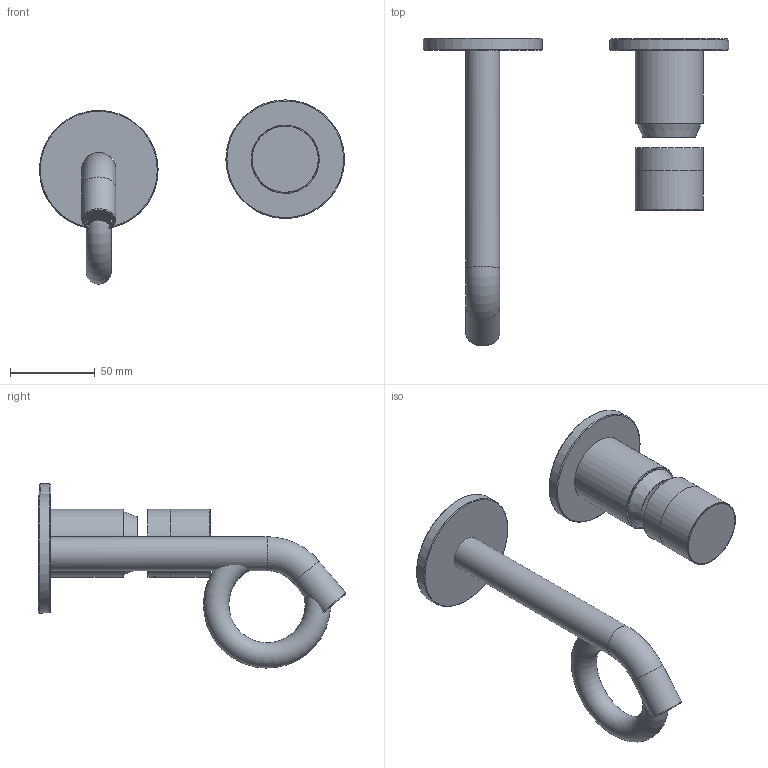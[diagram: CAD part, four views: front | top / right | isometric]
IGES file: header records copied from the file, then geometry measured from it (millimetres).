
Start section: Data from Parasolid IGES Translator 22.0.50, Copyright(c) 2006 Siemens P LM Software. All Rights Reserved.
Global section: file name: noorth-taps-H 7 D 21 W 18_5836.igs; native system: By Siemens PLM Incorporated; preprocessor: XPlus GENERIC/IGES 22.0.50; author: Noname; organization: Noname; date: 20260215.154139; units: metre
Bounding box: 180 x 181.51 x 108.67 mm (x, y, z)
Volume: 217233.9 mm3; surface area: 66403.5 mm2
Topology: 6 solids, 6 shells, 431 faces, 3478 edges, 3439 vertices
Faces by surface type: extrusion 159, revolution 151, bspline 76, cylinder 18, plane 14, cone 9, torus 4
Full cylindrical faces by diameter (mm): 15 x2, 20 x2, 20.3 x1, 23.6 x1, 30 x1, 37 x1, 40 x3, 40.3 x1, 70 x2
